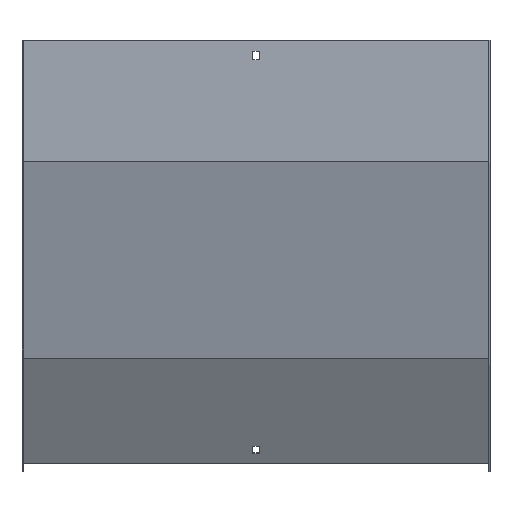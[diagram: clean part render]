
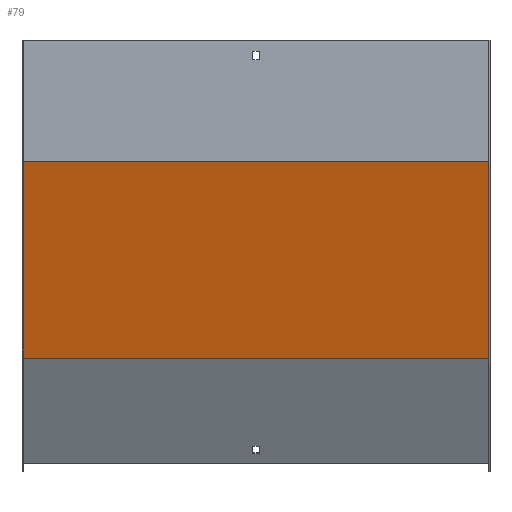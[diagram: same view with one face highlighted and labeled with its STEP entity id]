
A CAD part, front view. The second image highlights one B-rep face of the part: STEP entity #79.
In plain terms, the highlighted planar face has unit normal (0, -0.966, -0.259).
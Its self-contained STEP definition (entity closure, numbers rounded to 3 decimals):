
#10 = VECTOR ( 'NONE', #647, 1000. ) ;
#55 = EDGE_CURVE ( 'NONE', #481, #643, #393, .T. ) ;
#79 = ADVANCED_FACE ( 'NONE', ( #92 ), #819, .F. ) ;
#85 = CARTESIAN_POINT ( 'NONE',  ( 251.5, -1.449, -130.388 ) ) ;
#92 = FACE_OUTER_BOUND ( 'NONE', #592, .T. ) ;
#99 = DIRECTION ( 'NONE',  ( 0., 0.259, -0.966 ) ) ;
#126 = CARTESIAN_POINT ( 'NONE',  ( 251.5, 55.284, -342.117 ) ) ;
#187 = CARTESIAN_POINT ( 'NONE',  ( -250., 55.284, -342.117 ) ) ;
#193 = DIRECTION ( 'NONE',  ( -1., 0., 0. ) ) ;
#197 = EDGE_CURVE ( 'NONE', #729, #643, #574, .T. ) ;
#277 = VECTOR ( 'NONE', #683, 1000. ) ;
#299 = DIRECTION ( 'NONE',  ( 0., -0.259, 0.966 ) ) ;
#347 = DIRECTION ( 'NONE',  ( 0., 0.966, 0.259 ) ) ;
#373 = LINE ( 'NONE', #756, #698 ) ;
#393 = LINE ( 'NONE', #126, #277 ) ;
#436 = CARTESIAN_POINT ( 'NONE',  ( 250., 55.284, -342.117 ) ) ;
#449 = ORIENTED_EDGE ( 'NONE', *, *, #197, .T. ) ;
#457 = LINE ( 'NONE', #579, #542 ) ;
#481 = VERTEX_POINT ( 'NONE', #436 ) ;
#485 = CARTESIAN_POINT ( 'NONE',  ( 250., -1.5, -130.197 ) ) ;
#510 = ORIENTED_EDGE ( 'NONE', *, *, #549, .F. ) ;
#542 = VECTOR ( 'NONE', #193, 1000. ) ;
#549 = EDGE_CURVE ( 'NONE', #704, #481, #373, .T. ) ;
#574 = LINE ( 'NONE', #773, #10 ) ;
#579 = CARTESIAN_POINT ( 'NONE',  ( 251.5, -1.5, -130.197 ) ) ;
#592 = EDGE_LOOP ( 'NONE', ( #449, #821, #510, #637 ) ) ;
#599 = EDGE_CURVE ( 'NONE', #704, #729, #457, .T. ) ;
#637 = ORIENTED_EDGE ( 'NONE', *, *, #599, .T. ) ;
#643 = VERTEX_POINT ( 'NONE', #187 ) ;
#647 = DIRECTION ( 'NONE',  ( 0., 0.259, -0.966 ) ) ;
#683 = DIRECTION ( 'NONE',  ( -1., 0., 0. ) ) ;
#698 = VECTOR ( 'NONE', #99, 1000. ) ;
#704 = VERTEX_POINT ( 'NONE', #485 ) ;
#729 = VERTEX_POINT ( 'NONE', #785 ) ;
#756 = CARTESIAN_POINT ( 'NONE',  ( 250., -33.949, -9.097 ) ) ;
#762 = AXIS2_PLACEMENT_3D ( 'NONE', #85, #347, #299 ) ;
#773 = CARTESIAN_POINT ( 'NONE',  ( -250., -33.949, -9.097 ) ) ;
#785 = CARTESIAN_POINT ( 'NONE',  ( -250., -1.5, -130.197 ) ) ;
#819 = PLANE ( 'NONE',  #762 ) ;
#821 = ORIENTED_EDGE ( 'NONE', *, *, #55, .F. ) ;
